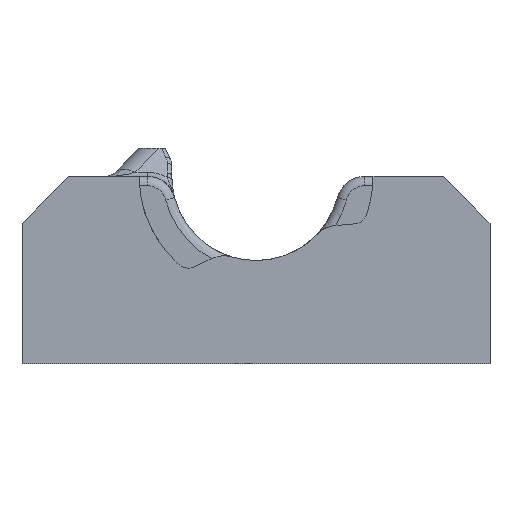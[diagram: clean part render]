
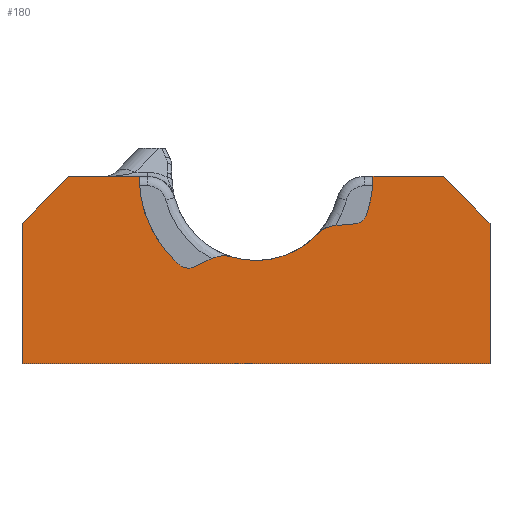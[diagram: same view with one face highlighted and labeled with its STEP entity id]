
A CAD part, front view. The second image highlights one B-rep face of the part: STEP entity #180.
In plain terms, the highlighted planar face has unit normal (0, -1, 0).
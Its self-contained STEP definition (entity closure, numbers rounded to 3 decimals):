
#133=CIRCLE('',#1056,8.98);
#135=CIRCLE('',#1061,1.5);
#136=CIRCLE('',#1062,12.5);
#137=CIRCLE('',#1063,12.5);
#138=CIRCLE('',#1064,12.5);
#139=CIRCLE('',#1065,1.5);
#140=CIRCLE('',#1066,3.);
#141=CIRCLE('',#1067,3.);
#180=ADVANCED_FACE('',(#259),#240,.F.);
#240=PLANE('',#1068);
#259=FACE_OUTER_BOUND('',#315,.T.);
#315=EDGE_LOOP('',(#425,#426,#427,#428,#429,#430,#431,#432,#433,#434,#435,
#436,#437,#438,#439,#440,#441));
#425=ORIENTED_EDGE('',*,*,#804,.T.);
#426=ORIENTED_EDGE('',*,*,#805,.T.);
#427=ORIENTED_EDGE('',*,*,#806,.T.);
#428=ORIENTED_EDGE('',*,*,#792,.F.);
#429=ORIENTED_EDGE('',*,*,#807,.T.);
#430=ORIENTED_EDGE('',*,*,#801,.T.);
#431=ORIENTED_EDGE('',*,*,#808,.T.);
#432=ORIENTED_EDGE('',*,*,#809,.F.);
#433=ORIENTED_EDGE('',*,*,#810,.T.);
#434=ORIENTED_EDGE('',*,*,#761,.F.);
#435=ORIENTED_EDGE('',*,*,#811,.F.);
#436=ORIENTED_EDGE('',*,*,#812,.F.);
#437=ORIENTED_EDGE('',*,*,#813,.T.);
#438=ORIENTED_EDGE('',*,*,#814,.T.);
#439=ORIENTED_EDGE('',*,*,#787,.T.);
#440=ORIENTED_EDGE('',*,*,#815,.T.);
#441=ORIENTED_EDGE('',*,*,#816,.T.);
#669=VERTEX_POINT('',#1467);
#670=VERTEX_POINT('',#1469);
#692=VERTEX_POINT('',#1529);
#693=VERTEX_POINT('',#1531);
#697=VERTEX_POINT('',#1601);
#698=VERTEX_POINT('',#1602);
#705=VERTEX_POINT('',#1619);
#706=VERTEX_POINT('',#1620);
#707=VERTEX_POINT('',#1625);
#708=VERTEX_POINT('',#1626);
#709=VERTEX_POINT('',#1628);
#710=VERTEX_POINT('',#1632);
#711=VERTEX_POINT('',#1634);
#712=VERTEX_POINT('',#1637);
#713=VERTEX_POINT('',#1639);
#714=VERTEX_POINT('',#1641);
#715=VERTEX_POINT('',#1644);
#761=EDGE_CURVE('',#669,#670,#907,.T.);
#787=EDGE_CURVE('',#693,#692,#133,.T.);
#792=EDGE_CURVE('',#697,#698,#927,.T.);
#801=EDGE_CURVE('',#705,#706,#936,.T.);
#804=EDGE_CURVE('',#707,#708,#135,.T.);
#805=EDGE_CURVE('',#708,#709,#136,.T.);
#806=EDGE_CURVE('',#709,#698,#137,.T.);
#807=EDGE_CURVE('',#697,#705,#939,.T.);
#808=EDGE_CURVE('',#706,#710,#940,.T.);
#809=EDGE_CURVE('',#711,#710,#941,.T.);
#810=EDGE_CURVE('',#711,#670,#942,.T.);
#811=EDGE_CURVE('',#712,#669,#138,.T.);
#812=EDGE_CURVE('',#713,#712,#139,.T.);
#813=EDGE_CURVE('',#713,#714,#943,.T.);
#814=EDGE_CURVE('',#714,#693,#140,.T.);
#815=EDGE_CURVE('',#692,#715,#141,.T.);
#816=EDGE_CURVE('',#715,#707,#944,.T.);
#907=LINE('',#1468,#977);
#927=LINE('',#1600,#997);
#936=LINE('',#1618,#1006);
#939=LINE('',#1630,#1009);
#940=LINE('',#1631,#1010);
#941=LINE('',#1633,#1011);
#942=LINE('',#1635,#1012);
#943=LINE('',#1640,#1013);
#944=LINE('',#1645,#1014);
#977=VECTOR('',#1165,1.);
#997=VECTOR('',#1209,1.);
#1006=VECTOR('',#1220,1.);
#1009=VECTOR('',#1231,1.);
#1010=VECTOR('',#1232,1.);
#1011=VECTOR('',#1233,1.);
#1012=VECTOR('',#1234,1.);
#1013=VECTOR('',#1239,1.);
#1014=VECTOR('',#1244,1.);
#1056=AXIS2_PLACEMENT_3D('',#1530,#1201,#1202);
#1061=AXIS2_PLACEMENT_3D('',#1624,#1225,#1226);
#1062=AXIS2_PLACEMENT_3D('',#1627,#1227,#1228);
#1063=AXIS2_PLACEMENT_3D('',#1629,#1229,#1230);
#1064=AXIS2_PLACEMENT_3D('',#1636,#1235,#1236);
#1065=AXIS2_PLACEMENT_3D('',#1638,#1237,#1238);
#1066=AXIS2_PLACEMENT_3D('',#1642,#1240,#1241);
#1067=AXIS2_PLACEMENT_3D('',#1643,#1242,#1243);
#1068=AXIS2_PLACEMENT_3D('',#1646,#1245,#1246);
#1165=DIRECTION('',(1.,0.,0.));
#1201=DIRECTION('',(0.,1.,0.));
#1202=DIRECTION('',(0.,0.,1.));
#1209=DIRECTION('',(1.,0.,0.));
#1220=DIRECTION('',(0.,0.,-1.));
#1225=DIRECTION('',(0.,1.,0.));
#1226=DIRECTION('',(0.,0.,1.));
#1227=DIRECTION('',(0.,1.,0.));
#1228=DIRECTION('',(0.,0.,1.));
#1229=DIRECTION('',(0.,1.,0.));
#1230=DIRECTION('',(0.,0.,1.));
#1231=DIRECTION('',(-0.707,0.,-0.707));
#1232=DIRECTION('',(1.,0.,0.));
#1233=DIRECTION('',(0.,0.,-1.));
#1234=DIRECTION('',(-0.707,0.,0.707));
#1235=DIRECTION('',(0.,-1.,0.));
#1236=DIRECTION('',(0.,0.,1.));
#1237=DIRECTION('',(0.,-1.,0.));
#1238=DIRECTION('',(0.,0.,1.));
#1239=DIRECTION('',(-0.996,0.,-0.087));
#1240=DIRECTION('',(0.,-1.,0.));
#1241=DIRECTION('',(0.,0.,1.));
#1242=DIRECTION('',(0.,-1.,0.));
#1243=DIRECTION('',(0.,0.,1.));
#1244=DIRECTION('',(-0.906,0.,-0.423));
#1245=DIRECTION('',(0.,1.,0.));
#1246=DIRECTION('',(-0.259,0.,0.966));
#1467=CARTESIAN_POINT('',(37.5,10.99,20.));
#1468=CARTESIAN_POINT('',(28.235,10.99,20.));
#1469=CARTESIAN_POINT('',(45.,10.99,20.));
#1529=CARTESIAN_POINT('',(22.441,10.99,11.392));
#1530=CARTESIAN_POINT('',(25.,10.99,20.));
#1531=CARTESIAN_POINT('',(31.52,10.99,13.825));
#1600=CARTESIAN_POINT('',(28.235,10.99,20.));
#1601=CARTESIAN_POINT('',(5.,10.99,20.));
#1602=CARTESIAN_POINT('',(12.5,10.99,20.));
#1618=CARTESIAN_POINT('',(0.,10.99,7.926));
#1619=CARTESIAN_POINT('',(0.,10.99,15.));
#1620=CARTESIAN_POINT('',(0.,10.99,0.));
#1624=CARTESIAN_POINT('',(17.776,10.99,11.705));
#1625=CARTESIAN_POINT('',(18.41,10.99,10.345));
#1626=CARTESIAN_POINT('',(16.791,10.99,10.574));
#1627=CARTESIAN_POINT('',(25.,10.99,20.));
#1628=CARTESIAN_POINT('',(16.32,10.99,11.005));
#1629=CARTESIAN_POINT('',(25.,10.99,20.));
#1630=CARTESIAN_POINT('',(5.,10.99,20.));
#1631=CARTESIAN_POINT('',(28.235,10.99,0.));
#1632=CARTESIAN_POINT('',(50.,10.99,0.));
#1633=CARTESIAN_POINT('',(50.,10.99,20.));
#1634=CARTESIAN_POINT('',(50.,10.99,15.));
#1635=CARTESIAN_POINT('',(45.,10.99,20.));
#1636=CARTESIAN_POINT('',(25.,10.99,20.));
#1637=CARTESIAN_POINT('',(36.823,10.99,15.941));
#1638=CARTESIAN_POINT('',(35.404,10.99,16.428));
#1639=CARTESIAN_POINT('',(35.535,10.99,14.934));
#1640=CARTESIAN_POINT('',(27.682,10.99,14.247));
#1641=CARTESIAN_POINT('',(33.437,10.99,14.751));
#1642=CARTESIAN_POINT('',(33.698,10.99,11.762));
#1643=CARTESIAN_POINT('',(21.586,10.99,8.517));
#1644=CARTESIAN_POINT('',(20.318,10.99,11.236));
#1645=CARTESIAN_POINT('',(25.554,10.99,13.677));
#1646=CARTESIAN_POINT('',(28.235,10.99,7.926));
